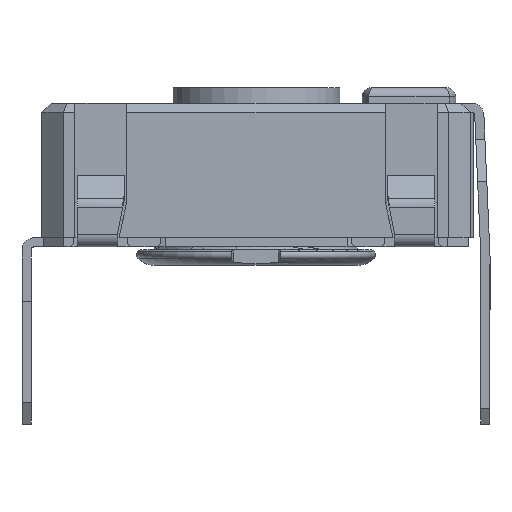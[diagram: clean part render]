
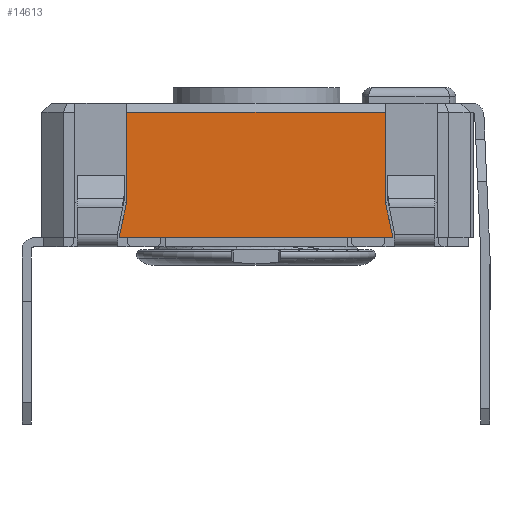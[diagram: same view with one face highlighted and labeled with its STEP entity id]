
A CAD part, left-side view. The second image highlights one B-rep face of the part: STEP entity #14613.
In plain terms, the highlighted planar face has unit normal (-1, 0, 0).
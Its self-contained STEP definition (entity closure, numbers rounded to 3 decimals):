
#1318=FACE_OUTER_BOUND('',#2074,.T.);
#2074=EDGE_LOOP('',(#12401,#12402,#12403,#12404,#12405,#12406));
#2989=LINE('',#22069,#4583);
#3288=LINE('',#23015,#4882);
#3292=LINE('',#23022,#4886);
#3649=LINE('',#23787,#5243);
#3654=LINE('',#23795,#5248);
#3655=LINE('',#23797,#5249);
#4583=VECTOR('',#17779,10.);
#4882=VECTOR('',#18508,10.);
#4886=VECTOR('',#18514,10.);
#5243=VECTOR('',#19259,10.);
#5248=VECTOR('',#19266,10.);
#5249=VECTOR('',#19269,10.);
#6096=VERTEX_POINT('',#22066);
#6097=VERTEX_POINT('',#22068);
#6388=VERTEX_POINT('',#23012);
#6389=VERTEX_POINT('',#23014);
#6391=VERTEX_POINT('',#23020);
#6591=VERTEX_POINT('',#23793);
#7753=EDGE_CURVE('',#6096,#6097,#2989,.T.);
#8163=EDGE_CURVE('',#6388,#6389,#3288,.T.);
#8167=EDGE_CURVE('',#6388,#6391,#3292,.T.);
#8548=EDGE_CURVE('',#6097,#6391,#3649,.T.);
#8553=EDGE_CURVE('',#6591,#6096,#3654,.T.);
#8554=EDGE_CURVE('',#6591,#6389,#3655,.T.);
#12401=ORIENTED_EDGE('',*,*,#8163,.F.);
#12402=ORIENTED_EDGE('',*,*,#8167,.T.);
#12403=ORIENTED_EDGE('',*,*,#8548,.F.);
#12404=ORIENTED_EDGE('',*,*,#7753,.F.);
#12405=ORIENTED_EDGE('',*,*,#8553,.F.);
#12406=ORIENTED_EDGE('',*,*,#8554,.T.);
#13185=PLANE('',#15695);
#14613=ADVANCED_FACE('',(#1318),#13185,.T.);
#15695=AXIS2_PLACEMENT_3D('',#23831,#19315,#19316);
#17779=DIRECTION('',(0.,1.,0.));
#18508=DIRECTION('',(0.,-1.,0.));
#18514=DIRECTION('',(0.,0.,-1.));
#19259=DIRECTION('',(0.,-0.208,0.978));
#19266=DIRECTION('',(0.,-0.208,-0.978));
#19269=DIRECTION('',(0.,0.,1.));
#19315=DIRECTION('center_axis',(-1.,0.,0.));
#19316=DIRECTION('ref_axis',(0.,0.,1.));
#22066=CARTESIAN_POINT('',(-7.,-4.425,-2.225));
#22068=CARTESIAN_POINT('',(-7.,4.525,-2.225));
#22069=CARTESIAN_POINT('',(-7.,-6.25,-2.225));
#23012=CARTESIAN_POINT('',(-7.,4.275,1.875));
#23014=CARTESIAN_POINT('',(-7.,-4.175,1.875));
#23015=CARTESIAN_POINT('',(-7.,-3.1,1.875));
#23020=CARTESIAN_POINT('',(-7.,4.275,-1.049));
#23022=CARTESIAN_POINT('',(-7.,4.275,-2.225));
#23787=CARTESIAN_POINT('',(-7.,4.525,-2.225));
#23793=CARTESIAN_POINT('',(-7.,-4.175,-1.049));
#23795=CARTESIAN_POINT('',(-7.,-4.175,-1.049));
#23797=CARTESIAN_POINT('',(-7.,-4.175,-2.225));
#23831=CARTESIAN_POINT('Origin',(-7.,-6.25,-2.225));
